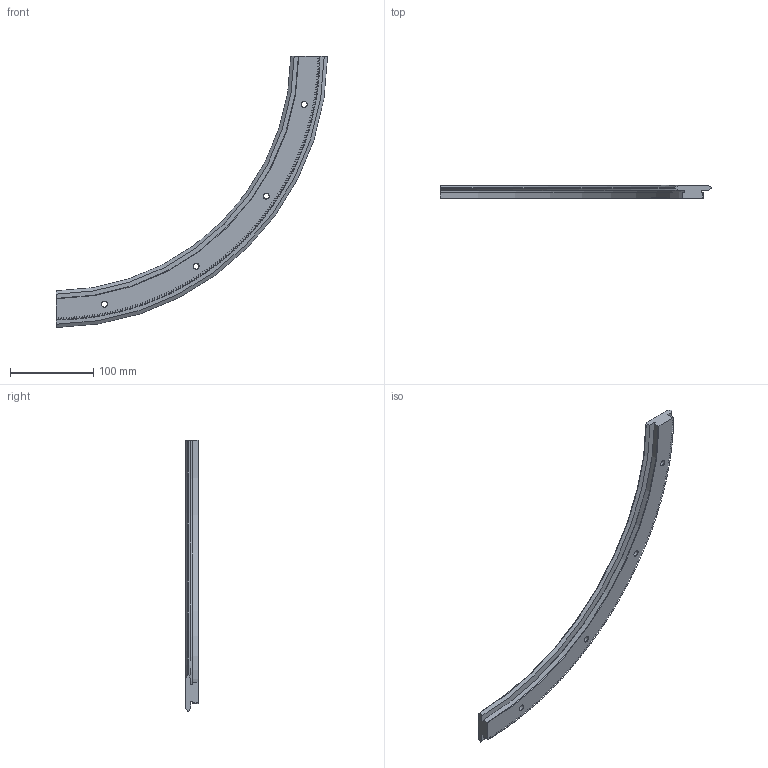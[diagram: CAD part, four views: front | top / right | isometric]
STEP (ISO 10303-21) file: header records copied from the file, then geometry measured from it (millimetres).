
FILE_DESCRIPTION( ( 'STEP AP203' ), '1' );
FILE_NAME( 'p:/temp/worker_20/temp/exporttempdir_3124_272_krI0p/format_0/R44 612 R90 P.stp', '2021-07-19T05:41:17', ( 'License CC BY-ND 4.0' ), ( 'CADENAS' ), ' ', 'PARTsolutions', ' ' );
FILE_SCHEMA( ( 'CONFIG_CONTROL_DESIGN' ) );
Length unit declared in the file: millimetre
Products named in the file (1): _R44 612 R90 P
Bounding box: 326.09 x 15.5 x 326.09 mm (x, y, z)
Volume: 219750.8 mm3; surface area: 63741 mm2
Topology: 1 solids, 1 shells, 980 faces, 2604 edges, 1630 vertices
Faces by surface type: plane 642, cylinder 169, cone 167, torus 2
Full cylindrical faces by diameter (mm): 6.8 x4, 11 x4
Entity records: 30509 total; most frequent: CARTESIAN_POINT 6205, ORIENTED_EDGE 5184, DIRECTION 5047, EDGE_CURVE 2592, AXIS2_PLACEMENT_3D 1804, VERTEX_POINT 1630, LINE 1439, VECTOR 1439
